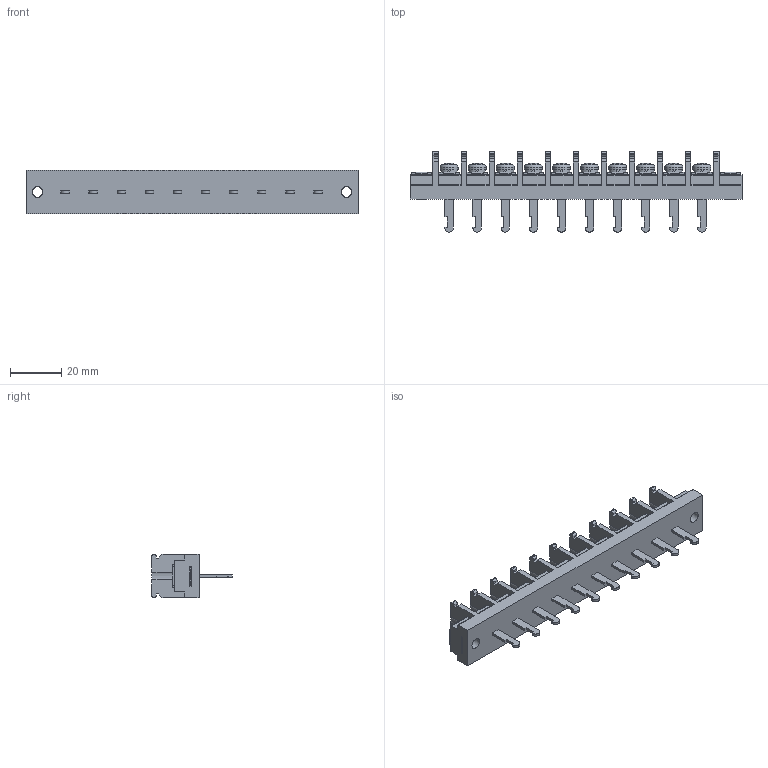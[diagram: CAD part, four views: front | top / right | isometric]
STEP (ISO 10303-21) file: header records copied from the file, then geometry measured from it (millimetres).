
FILE_DESCRIPTION(/* description */ ('Alibre Inc.'),/* implementation_level */ '2;1');
FILE_NAME(/* name */ 'export0',/* time_stamp */ '2015-10-19T20:02:24+09:00',/* author */ (''),/* organization */ (''),/* preprocessor_version */ 'ST-DEVELOPER v14',/* originating_system */ 'Alibre',/* authorisation */ '');
FILE_SCHEMA (('CONFIG_CONTROL_DESIGN'));
Length unit declared in the file: centimetre
Products named in the file (1): ID_1
Bounding box: 130 x 31.5 x 17 mm (x, y, z)
Volume: 23925.7 mm3; surface area: 13996.8 mm2
Topology: 1 solids, 1 shells, 1234 faces, 3446 edges, 2288 vertices
Faces by surface type: plane 878, cylinder 182, bspline 104, cone 40, torus 20, sphere 10
Full cylindrical faces by diameter (mm): 4 x12, 4.2 x2, 6.5 x10, 7 x10
Entity records: 38215 total; most frequent: CARTESIAN_POINT 8056, ORIENTED_EDGE 6740, DIRECTION 5059, EDGE_CURVE 3370, VECTOR 2387, LINE 2387, VERTEX_POINT 2256, AXIS2_PLACEMENT_3D 1765
